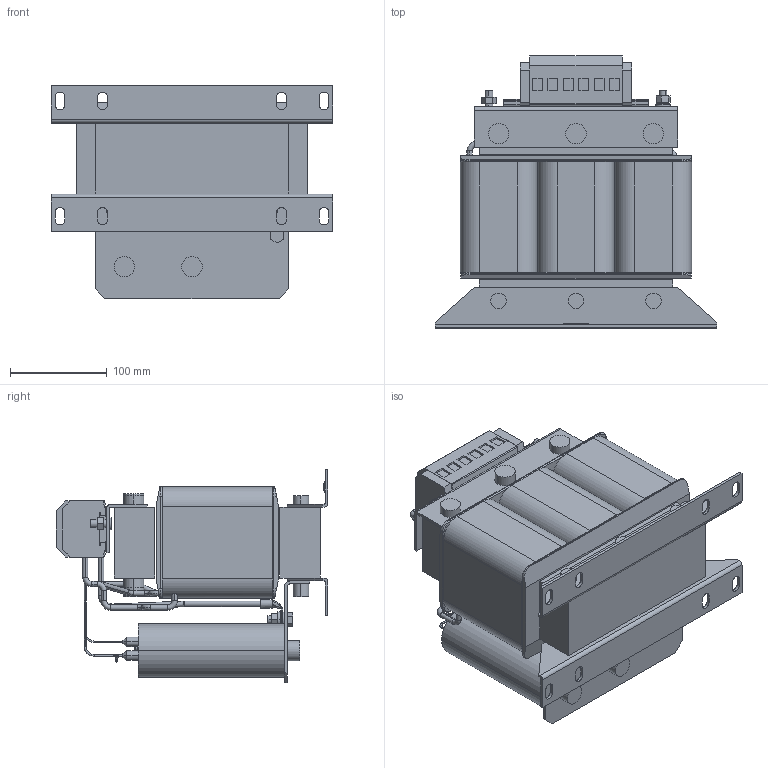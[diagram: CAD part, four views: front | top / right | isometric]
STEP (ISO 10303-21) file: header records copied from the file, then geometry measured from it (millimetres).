
FILE_DESCRIPTION (( 'STEP AP214' ), '1' );
FILE_NAME ('00Z1GX4-0118.STEP', '2025-01-15T13:28:46', ( '' ), ( '' ), 'SwSTEP 2.0', 'SolidWorks 2022', '' );
FILE_SCHEMA (( 'AUTOMOTIVE_DESIGN' ));
Length unit declared in the file: millimetre
Products named in the file (1): 00Z1GX4-0118
Bounding box: 291 x 281.1 x 220.2 mm (x, y, z)
Volume: 5922987.4 mm3; surface area: 539400.3 mm2
Topology: 1 solids, 2 shells, 805 faces, 2098 edges, 1347 vertices
Faces by surface type: plane 376, cylinder 290, torus 100, bspline 27, cone 12
Entity records: 26955 total; most frequent: CARTESIAN_POINT 6537, DIRECTION 4322, ORIENTED_EDGE 4196, EDGE_CURVE 2098, AXIS2_PLACEMENT_3D 1620, VERTEX_POINT 1347, LINE 1082, VECTOR 1082
